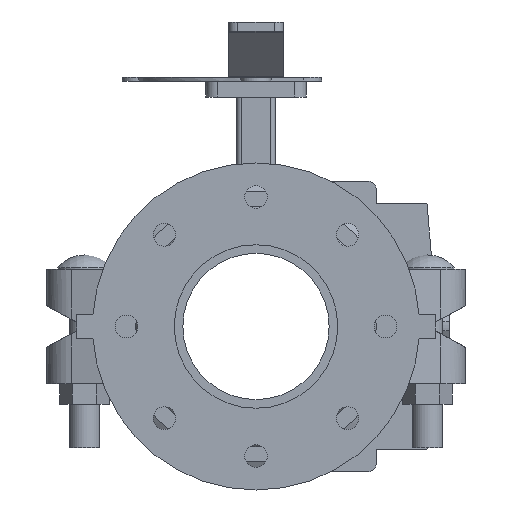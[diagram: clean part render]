
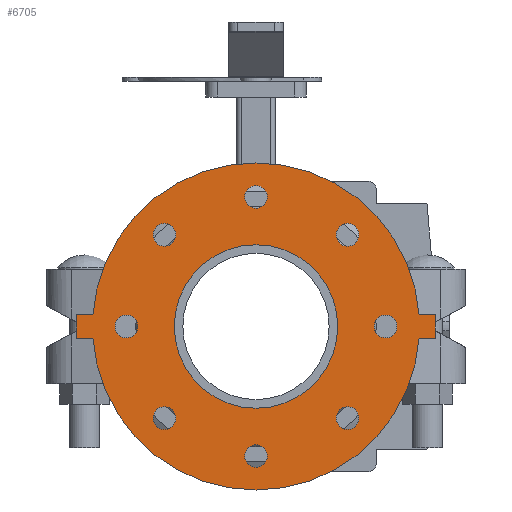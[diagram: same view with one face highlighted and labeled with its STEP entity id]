
A CAD part, front view. The second image highlights one B-rep face of the part: STEP entity #6705.
In plain terms, the highlighted planar face has unit normal (0, -1, 0) as drawn and (0, 0, -1) by its records, which use the part's own axes.
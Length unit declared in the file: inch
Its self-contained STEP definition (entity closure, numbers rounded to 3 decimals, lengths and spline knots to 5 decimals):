
#159=FACE_BOUND('',#837,.T.);
#160=FACE_BOUND('',#838,.T.);
#161=FACE_BOUND('',#839,.T.);
#162=FACE_BOUND('',#840,.T.);
#163=FACE_BOUND('',#841,.T.);
#164=FACE_BOUND('',#842,.T.);
#165=FACE_BOUND('',#843,.T.);
#166=FACE_BOUND('',#844,.T.);
#167=FACE_BOUND('',#845,.T.);
#245=PLANE('',#7271);
#464=FACE_OUTER_BOUND('',#836,.T.);
#836=EDGE_LOOP('',(#4358,#4359,#4360,#4361,#4362,#4363,#4364,#4365));
#837=EDGE_LOOP('',(#4366));
#838=EDGE_LOOP('',(#4367));
#839=EDGE_LOOP('',(#4368));
#840=EDGE_LOOP('',(#4369));
#841=EDGE_LOOP('',(#4370));
#842=EDGE_LOOP('',(#4371));
#843=EDGE_LOOP('',(#4372));
#844=EDGE_LOOP('',(#4373));
#845=EDGE_LOOP('',(#4374));
#1273=LINE('',#10175,#1788);
#1276=LINE('',#10181,#1791);
#1279=LINE('',#10186,#1794);
#1281=LINE('',#10191,#1796);
#1285=LINE('',#10198,#1800);
#1287=LINE('',#10201,#1802);
#1788=VECTOR('',#8099,0.3937);
#1791=VECTOR('',#8104,0.3937);
#1794=VECTOR('',#8109,0.3937);
#1796=VECTOR('',#8113,0.3937);
#1800=VECTOR('',#8119,0.3937);
#1802=VECTOR('',#8123,0.3937);
#2291=CIRCLE('',#7233,0.315);
#2293=CIRCLE('',#7236,0.315);
#2295=CIRCLE('',#7239,0.315);
#2297=CIRCLE('',#7242,0.315);
#2299=CIRCLE('',#7245,0.315);
#2301=CIRCLE('',#7248,0.315);
#2303=CIRCLE('',#7251,0.315);
#2305=CIRCLE('',#7254,0.315);
#2306=CIRCLE('',#7256,2.25);
#2308=CIRCLE('',#7259,4.5);
#2311=CIRCLE('',#7263,4.5);
#2675=VERTEX_POINT('',#10104);
#2677=VERTEX_POINT('',#10110);
#2679=VERTEX_POINT('',#10116);
#2681=VERTEX_POINT('',#10122);
#2683=VERTEX_POINT('',#10128);
#2685=VERTEX_POINT('',#10134);
#2687=VERTEX_POINT('',#10140);
#2689=VERTEX_POINT('',#10146);
#2690=VERTEX_POINT('',#10150);
#2692=VERTEX_POINT('',#10156);
#2694=VERTEX_POINT('',#10159);
#2696=VERTEX_POINT('',#10165);
#2699=VERTEX_POINT('',#10170);
#2700=VERTEX_POINT('',#10174);
#2702=VERTEX_POINT('',#10180);
#2704=VERTEX_POINT('',#10189);
#2705=VERTEX_POINT('',#10190);
#3320=EDGE_CURVE('',#2675,#2675,#2291,.T.);
#3323=EDGE_CURVE('',#2677,#2677,#2293,.T.);
#3326=EDGE_CURVE('',#2679,#2679,#2295,.T.);
#3329=EDGE_CURVE('',#2681,#2681,#2297,.T.);
#3332=EDGE_CURVE('',#2683,#2683,#2299,.T.);
#3335=EDGE_CURVE('',#2685,#2685,#2301,.T.);
#3338=EDGE_CURVE('',#2687,#2687,#2303,.T.);
#3341=EDGE_CURVE('',#2689,#2689,#2305,.T.);
#3342=EDGE_CURVE('',#2690,#2690,#2306,.T.);
#3346=EDGE_CURVE('',#2692,#2694,#2308,.T.);
#3352=EDGE_CURVE('',#2699,#2696,#2311,.T.);
#3353=EDGE_CURVE('',#2694,#2700,#1273,.T.);
#3356=EDGE_CURVE('',#2702,#2699,#1276,.T.);
#3359=EDGE_CURVE('',#2700,#2702,#1279,.T.);
#3361=EDGE_CURVE('',#2704,#2705,#1281,.T.);
#3365=EDGE_CURVE('',#2696,#2704,#1285,.T.);
#3367=EDGE_CURVE('',#2705,#2692,#1287,.T.);
#4358=ORIENTED_EDGE('',*,*,#3367,.F.);
#4359=ORIENTED_EDGE('',*,*,#3361,.F.);
#4360=ORIENTED_EDGE('',*,*,#3365,.F.);
#4361=ORIENTED_EDGE('',*,*,#3352,.F.);
#4362=ORIENTED_EDGE('',*,*,#3356,.F.);
#4363=ORIENTED_EDGE('',*,*,#3359,.F.);
#4364=ORIENTED_EDGE('',*,*,#3353,.F.);
#4365=ORIENTED_EDGE('',*,*,#3346,.F.);
#4366=ORIENTED_EDGE('',*,*,#3320,.T.);
#4367=ORIENTED_EDGE('',*,*,#3323,.T.);
#4368=ORIENTED_EDGE('',*,*,#3326,.T.);
#4369=ORIENTED_EDGE('',*,*,#3329,.T.);
#4370=ORIENTED_EDGE('',*,*,#3332,.T.);
#4371=ORIENTED_EDGE('',*,*,#3335,.T.);
#4372=ORIENTED_EDGE('',*,*,#3338,.T.);
#4373=ORIENTED_EDGE('',*,*,#3341,.T.);
#4374=ORIENTED_EDGE('',*,*,#3342,.T.);
#6705=ADVANCED_FACE('',(#464,#159,#160,#161,#162,#163,#164,#165,#166,#167),
#245,.F.);
#7233=AXIS2_PLACEMENT_3D('',#10106,#8023,#8024);
#7236=AXIS2_PLACEMENT_3D('',#10112,#8030,#8031);
#7239=AXIS2_PLACEMENT_3D('',#10118,#8037,#8038);
#7242=AXIS2_PLACEMENT_3D('',#10124,#8044,#8045);
#7245=AXIS2_PLACEMENT_3D('',#10130,#8051,#8052);
#7248=AXIS2_PLACEMENT_3D('',#10136,#8058,#8059);
#7251=AXIS2_PLACEMENT_3D('',#10142,#8065,#8066);
#7254=AXIS2_PLACEMENT_3D('',#10148,#8072,#8073);
#7256=AXIS2_PLACEMENT_3D('',#10151,#8076,#8077);
#7259=AXIS2_PLACEMENT_3D('',#10160,#8084,#8085);
#7263=AXIS2_PLACEMENT_3D('',#10172,#8095,#8096);
#7271=AXIS2_PLACEMENT_3D('',#10204,#8127,#8128);
#8023=DIRECTION('center_axis',(0.,0.,1.));
#8024=DIRECTION('ref_axis',(-0.707,-0.707,0.));
#8030=DIRECTION('center_axis',(0.,0.,1.));
#8031=DIRECTION('ref_axis',(-1.,0.,0.));
#8037=DIRECTION('center_axis',(0.,0.,1.));
#8038=DIRECTION('ref_axis',(-0.707,0.707,0.));
#8044=DIRECTION('center_axis',(0.,0.,1.));
#8045=DIRECTION('ref_axis',(0.,1.,0.));
#8051=DIRECTION('center_axis',(0.,0.,1.));
#8052=DIRECTION('ref_axis',(0.707,0.707,0.));
#8058=DIRECTION('center_axis',(0.,0.,1.));
#8059=DIRECTION('ref_axis',(1.,0.,0.));
#8065=DIRECTION('center_axis',(0.,0.,1.));
#8066=DIRECTION('ref_axis',(0.707,-0.707,0.));
#8072=DIRECTION('center_axis',(0.,0.,1.));
#8073=DIRECTION('ref_axis',(0.,-1.,0.));
#8076=DIRECTION('center_axis',(0.,0.,1.));
#8077=DIRECTION('ref_axis',(0.,-1.,0.));
#8084=DIRECTION('center_axis',(0.,0.,1.));
#8085=DIRECTION('ref_axis',(0.,1.,0.));
#8095=DIRECTION('center_axis',(0.,0.,1.));
#8096=DIRECTION('ref_axis',(0.,1.,0.));
#8099=DIRECTION('',(0.,-1.,0.));
#8104=DIRECTION('',(0.,1.,0.));
#8109=DIRECTION('',(1.,0.,0.));
#8113=DIRECTION('',(-1.,0.,0.));
#8119=DIRECTION('',(0.,1.,0.));
#8123=DIRECTION('',(0.,-1.,0.));
#8127=DIRECTION('center_axis',(0.,0.,1.));
#8128=DIRECTION('ref_axis',(0.,1.,0.));
#10104=CARTESIAN_POINT('',(-2.2981,2.74357,0.));
#10106=CARTESIAN_POINT('Origin',(-2.52084,2.52084,0.));
#10110=CARTESIAN_POINT('',(0.315,3.565,0.));
#10112=CARTESIAN_POINT('Origin',(0.,3.565,0.));
#10116=CARTESIAN_POINT('',(2.74357,2.2981,0.));
#10118=CARTESIAN_POINT('Origin',(2.52084,2.52084,0.));
#10122=CARTESIAN_POINT('',(3.565,-0.315,0.));
#10124=CARTESIAN_POINT('Origin',(3.565,0.,0.));
#10128=CARTESIAN_POINT('',(2.2981,-2.74357,0.));
#10130=CARTESIAN_POINT('Origin',(2.52084,-2.52084,0.));
#10134=CARTESIAN_POINT('',(-0.315,-3.565,0.));
#10136=CARTESIAN_POINT('Origin',(0.,-3.565,0.));
#10140=CARTESIAN_POINT('',(-2.74357,-2.2981,0.));
#10142=CARTESIAN_POINT('Origin',(-2.52084,-2.52084,0.));
#10146=CARTESIAN_POINT('',(-3.565,0.315,0.));
#10148=CARTESIAN_POINT('Origin',(-3.565,0.,0.));
#10150=CARTESIAN_POINT('',(0.,2.25,0.));
#10151=CARTESIAN_POINT('Origin',(0.,0.,0.));
#10156=CARTESIAN_POINT('',(-0.32,4.48861,0.));
#10159=CARTESIAN_POINT('',(-0.32,-4.48861,0.));
#10160=CARTESIAN_POINT('Origin',(0.,0.,0.));
#10165=CARTESIAN_POINT('',(0.32,4.48861,0.));
#10170=CARTESIAN_POINT('',(0.32,-4.48861,0.));
#10172=CARTESIAN_POINT('Origin',(0.,0.,0.));
#10174=CARTESIAN_POINT('',(-0.32,-4.94,0.));
#10175=CARTESIAN_POINT('',(-0.32,-4.48861,0.));
#10180=CARTESIAN_POINT('',(0.32,-4.94,0.));
#10181=CARTESIAN_POINT('',(0.32,-4.94,0.));
#10186=CARTESIAN_POINT('',(-0.32,-4.94,0.));
#10189=CARTESIAN_POINT('',(0.32,4.94,0.));
#10190=CARTESIAN_POINT('',(-0.32,4.94,0.));
#10191=CARTESIAN_POINT('',(0.32,4.94,0.));
#10198=CARTESIAN_POINT('',(0.32,4.48861,0.));
#10201=CARTESIAN_POINT('',(-0.32,4.94,0.));
#10204=CARTESIAN_POINT('Origin',(0.,4.73391,
0.));
